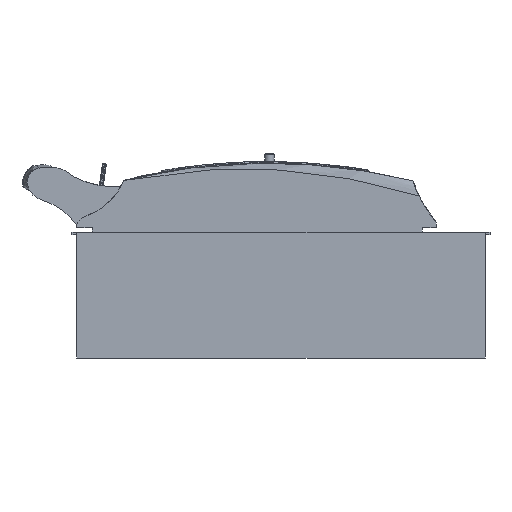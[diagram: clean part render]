
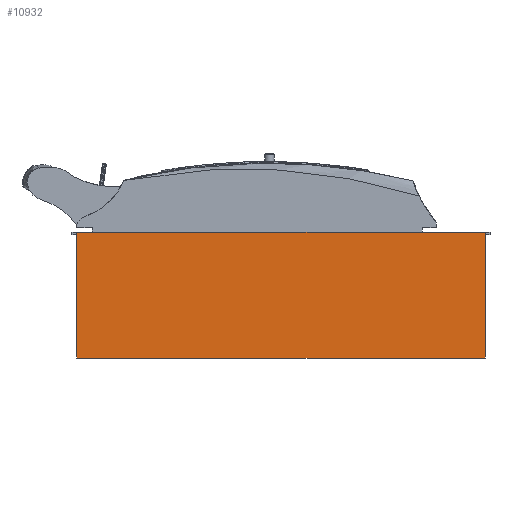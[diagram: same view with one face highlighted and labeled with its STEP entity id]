
A CAD part, front view. The second image highlights one B-rep face of the part: STEP entity #10932.
In plain terms, the highlighted planar face has unit normal (0, -1, 0).
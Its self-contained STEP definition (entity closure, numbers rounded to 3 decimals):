
#8825=FACE_OUTER_BOUND('',#12524,.T.);
#10072=PLANE('',#32353);
#10932=ADVANCED_FACE('',(#8825),#10072,.F.);
#12524=EDGE_LOOP('',(#16934,#16935,#16936,#16937));
#16934=ORIENTED_EDGE('',*,*,#26261,.T.);
#16935=ORIENTED_EDGE('',*,*,#26071,.F.);
#16936=ORIENTED_EDGE('',*,*,#25960,.F.);
#16937=ORIENTED_EDGE('',*,*,#26034,.T.);
#23634=VERTEX_POINT('',#42828);
#23645=VERTEX_POINT('',#42849);
#23713=VERTEX_POINT('',#43007);
#23740=VERTEX_POINT('',#43068);
#25960=EDGE_CURVE('',#23645,#23634,#29002,.T.);
#26034=EDGE_CURVE('',#23645,#23713,#29074,.T.);
#26071=EDGE_CURVE('',#23634,#23740,#29101,.T.);
#26261=EDGE_CURVE('',#23713,#23740,#29267,.T.);
#29002=LINE('',#42850,#30423);
#29074=LINE('',#43008,#30495);
#29101=LINE('',#43076,#30522);
#29267=LINE('',#43448,#30688);
#30423=VECTOR('',#35208,1.);
#30495=VECTOR('',#35316,1.);
#30522=VECTOR('',#35365,1.);
#30688=VECTOR('',#35639,1.);
#32353=AXIS2_PLACEMENT_3D('',#43449,#35640,#35641);
#35208=DIRECTION('',(1.,0.,0.));
#35316=DIRECTION('',(0.,0.,-1.));
#35365=DIRECTION('',(0.,0.,-1.));
#35639=DIRECTION('',(1.,0.,0.));
#35640=DIRECTION('',(0.,1.,0.));
#35641=DIRECTION('',(0.,0.,1.));
#42828=CARTESIAN_POINT('',(150.828,-104.,196.103));
#42849=CARTESIAN_POINT('',(-109.172,-104.,196.103));
#42850=CARTESIAN_POINT('',(150.828,-104.,196.103));
#43007=CARTESIAN_POINT('',(-109.172,-104.,116.103));
#43008=CARTESIAN_POINT('',(-109.172,-104.,196.103));
#43068=CARTESIAN_POINT('',(150.828,-104.,116.103));
#43076=CARTESIAN_POINT('',(150.828,-104.,196.103));
#43448=CARTESIAN_POINT('',(150.828,-104.,116.103));
#43449=CARTESIAN_POINT('',(150.828,-104.,196.103));
